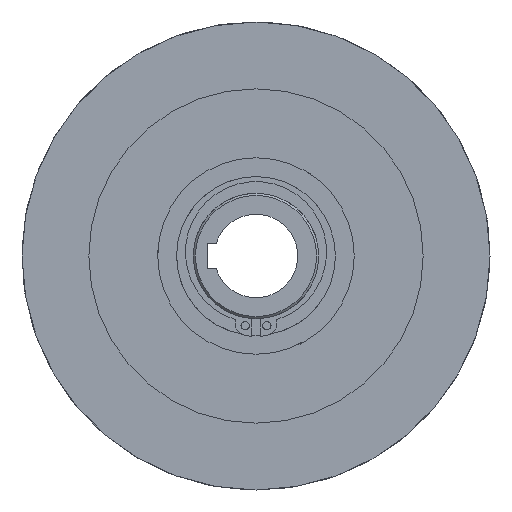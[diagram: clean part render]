
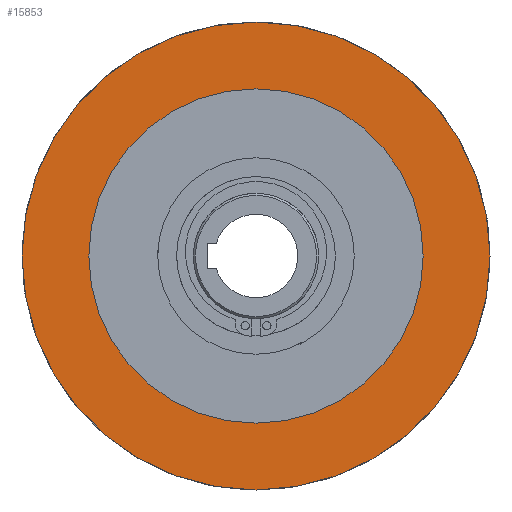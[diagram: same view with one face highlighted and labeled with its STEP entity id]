
A CAD part, left-side view. The second image highlights one B-rep face of the part: STEP entity #15853.
In plain terms, the highlighted planar face has unit normal (-1, 0, 0).
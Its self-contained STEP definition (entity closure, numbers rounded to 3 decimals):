
#590=FACE_BOUND('',#2546,.T.);
#1676=FACE_OUTER_BOUND('',#2545,.T.);
#2545=EDGE_LOOP('',(#11034));
#2546=EDGE_LOOP('',(#11035));
#3626=CIRCLE('',#16910,40.);
#3627=CIRCLE('',#16912,56.);
#6147=VERTEX_POINT('',#44100);
#6148=VERTEX_POINT('',#44104);
#8012=EDGE_CURVE('',#6147,#6147,#3626,.T.);
#8013=EDGE_CURVE('',#6148,#6148,#3627,.T.);
#11034=ORIENTED_EDGE('',*,*,#8013,.F.);
#11035=ORIENTED_EDGE('',*,*,#8012,.T.);
#14835=PLANE('',#16911);
#15853=ADVANCED_FACE('',(#1676,#590),#14835,.T.);
#16910=AXIS2_PLACEMENT_3D('',#44102,#19382,#19383);
#16911=AXIS2_PLACEMENT_3D('',#44103,#19384,#19385);
#16912=AXIS2_PLACEMENT_3D('',#44105,#19386,#19387);
#19382=DIRECTION('center_axis',(1.,0.,0.));
#19383=DIRECTION('ref_axis',(0.,1.,0.));
#19384=DIRECTION('center_axis',(-1.,0.,0.));
#19385=DIRECTION('ref_axis',(0.,0.,
1.));
#19386=DIRECTION('center_axis',(1.,0.,0.));
#19387=DIRECTION('ref_axis',(0.,1.,0.));
#44100=CARTESIAN_POINT('',(-36.,-40.,0.));
#44102=CARTESIAN_POINT('Origin',(-36.,0.,0.));
#44103=CARTESIAN_POINT('Origin',(-36.,48.,0.));
#44104=CARTESIAN_POINT('',(-36.,-56.,0.));
#44105=CARTESIAN_POINT('Origin',(-36.,0.,0.));
